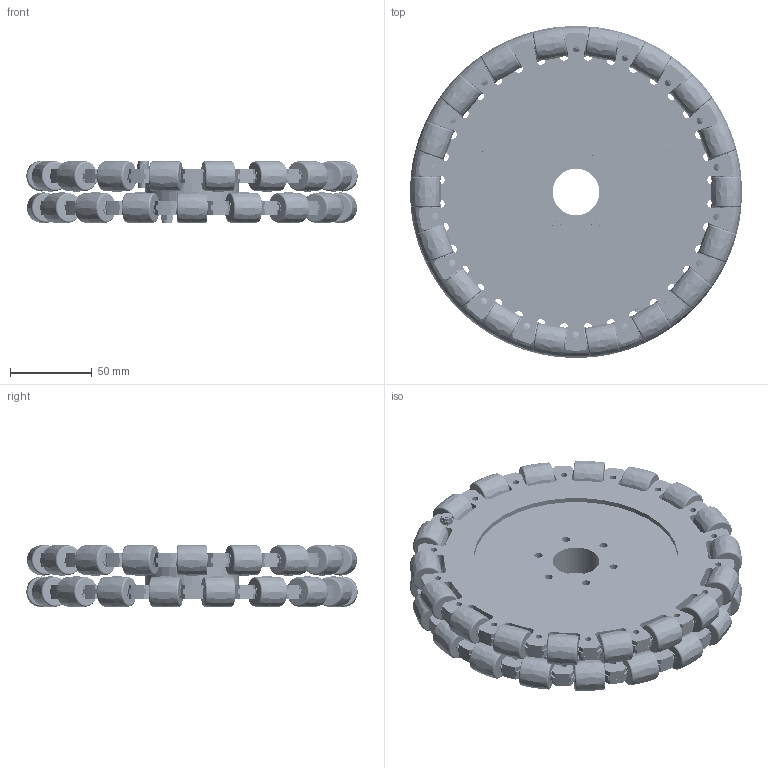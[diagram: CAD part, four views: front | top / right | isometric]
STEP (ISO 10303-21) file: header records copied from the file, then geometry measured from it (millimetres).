
FILE_DESCRIPTION((''),'2;1');
FILE_NAME('MO125.STEP','2012-12-03T',('Administrator'),(''),'PRO/ENGINEER BY PARAMETRIC TECHNOLOGY CORPORATION, 2009360','PRO/ENGINEER BY PARAMETRIC TECHNOLOGY CORPORATION, 2009360','');
FILE_SCHEMA(('CONFIG_CONTROL_DESIGN'));
Length unit declared in the file: millimetre
Products named in the file (15): 4-1; A-A; A-B_; N3; N5-A; N5; N4; N1__ASM; A-C; M4; M4-2; 8B_ASM; N1_1_ASM; 8A_ASM; MO125
Assembly tree (159 placements, depth 4):
  MO125
    4-1
    8B_ASM
      A-A
      A-B_
      N1__ASM
        N3  x18
        N5-A  x18
        N5  x18
        N4  x18
      A-C
      M4
      M4-2
    8A_ASM
      A-A
      A-B_
      N1_1_ASM
        N3  x18
        N5-A  x18
        N5  x18
        N4  x18
      A-C
      M4
      M4-2
Bounding box: 203 x 203 x 38.4 mm (x, y, z)
Volume: 478329.1 mm3; surface area: 311530.1 mm2
Topology: 155 solids, 155 shells, 3596 faces, 8544 edges, 5264 vertices
Faces by surface type: cylinder 1312, plane 1060, torus 1008, cone 144, bspline 72
Entity records: 29792 total; most frequent: DIRECTION 5544, CARTESIAN_POINT 5159, ORIENTED_EDGE 4752, EDGE_CURVE 2376, AXIS2_PLACEMENT_3D 2013, VERTEX_POINT 1572, VECTOR 1518, LINE 1518
